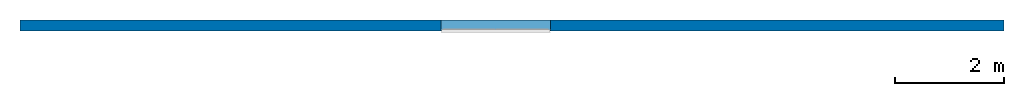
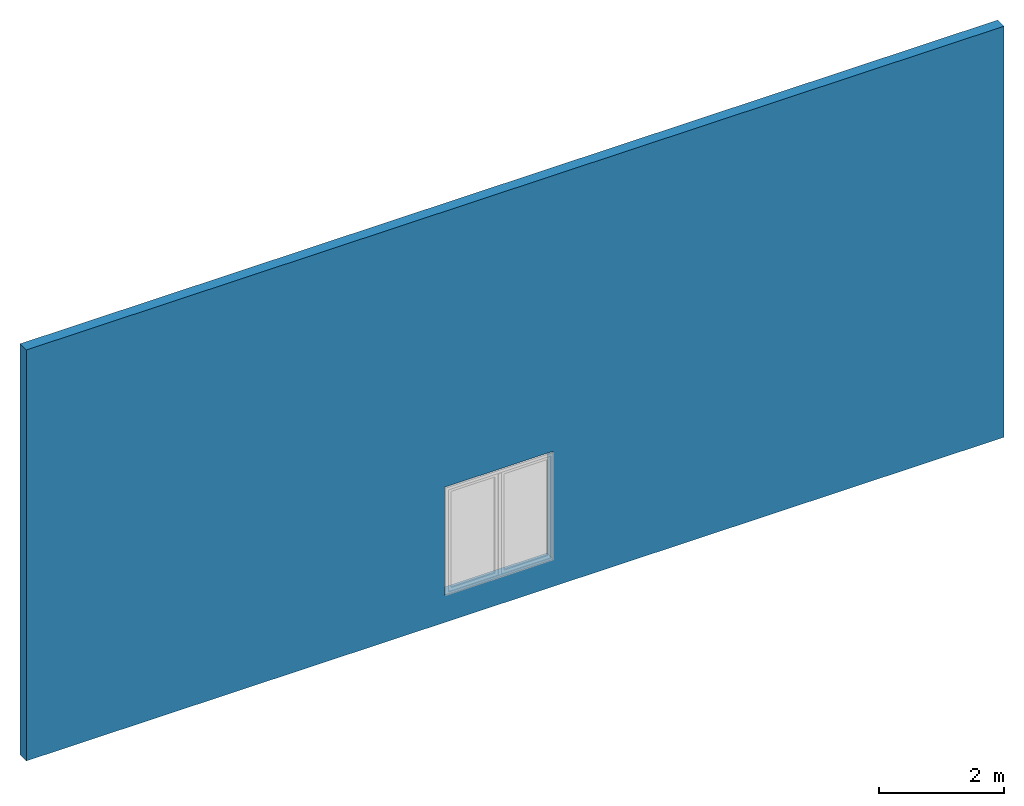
# One storey, part 1 of 2: 1 wall, 1 opening.
"""IFC2X3 building model written with IfcOpenShell, lengths in millimetres."""

from ifc_helpers import new_model, entity, si_unit, converted_unit, derived_unit, direction, frame, frame_2d, origin, place, context, subcontext, project, spatial, rectangle, extrude, material, layer, layer_set, layer_usage, type_object, element, save


model = new_model("IFC2X3")

# Units and contexts
model_context = context("Model", 3, precision=0.01, world=origin(), true_north=direction((6.12303176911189e-17, 1.0)))
body_context = subcontext(model_context, "Body", "Model", "MODEL_VIEW")
ifc_project = project(units=[si_unit("LENGTHUNIT", "METRE", prefix="MILLI"), si_unit("AREAUNIT", "SQUARE_METRE"), si_unit("VOLUMEUNIT", "CUBIC_METRE"), converted_unit("PLANEANGLEUNIT", "DEGREE", entity("IfcRatioMeasure", 0.0174532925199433), si_unit("PLANEANGLEUNIT", "RADIAN"), dimensions=[0, 0, 0, 0, 0, 0, 0]), si_unit("MASSUNIT", "GRAM", prefix="KILO"), derived_unit("MASSDENSITYUNIT", [(si_unit("MASSUNIT", "GRAM", prefix="KILO"), 1), (si_unit("LENGTHUNIT", "METRE"), -3)]), si_unit("TIMEUNIT", "SECOND"), si_unit("FREQUENCYUNIT", "HERTZ"), si_unit("THERMODYNAMICTEMPERATUREUNIT", "DEGREE_CELSIUS"), derived_unit("THERMALTRANSMITTANCEUNIT", [(si_unit("MASSUNIT", "GRAM", prefix="KILO"), 1), (si_unit("THERMODYNAMICTEMPERATUREUNIT", "KELVIN"), -1), (si_unit("TIMEUNIT", "SECOND"), -3)]), derived_unit("VOLUMETRICFLOWRATEUNIT", [(si_unit("LENGTHUNIT", "METRE"), 3), (si_unit("TIMEUNIT", "SECOND"), -1)]), si_unit("ELECTRICCURRENTUNIT", "AMPERE"), si_unit("ELECTRICVOLTAGEUNIT", "VOLT"), si_unit("POWERUNIT", "WATT"), si_unit("FORCEUNIT", "NEWTON", prefix="KILO"), si_unit("ILLUMINANCEUNIT", "LUX"), si_unit("LUMINOUSFLUXUNIT", "LUMEN"), si_unit("LUMINOUSINTENSITYUNIT", "CANDELA"), derived_unit("USERDEFINED", [(si_unit("MASSUNIT", "GRAM", prefix="KILO"), -1), (si_unit("LENGTHUNIT", "METRE"), -2), (si_unit("TIMEUNIT", "SECOND"), 3), (si_unit("LUMINOUSFLUXUNIT", "LUMEN"), 1)]), derived_unit("LINEARVELOCITYUNIT", [(si_unit("LENGTHUNIT", "METRE"), 1), (si_unit("TIMEUNIT", "SECOND"), -1)]), si_unit("PRESSUREUNIT", "PASCAL"), derived_unit("USERDEFINED", [(si_unit("LENGTHUNIT", "METRE"), -2), (si_unit("MASSUNIT", "GRAM", prefix="KILO"), 1), (si_unit("TIMEUNIT", "SECOND"), -2)])], contexts=[model_context])

# Site, building, storey
site_placement = place(None, origin())
site = spatial("IfcSite", under=ifc_project, at=site_placement, Name="Default", CompositionType="ELEMENT")
building_placement = place(site_placement, origin())
building = spatial("IfcBuilding", under=site, at=building_placement, CompositionType="ELEMENT")
storey_placement = place(building_placement, origin())
storey = spatial("IfcBuildingStorey", under=building, at=storey_placement, Name="Nivel 1", CompositionType="ELEMENT", Elevation=0.0)

# Wall, opening
ifc_material = material(Name="Muro por defecto")
ifc_layer = layer(ifc_material, 200.0)
ifc_layer_set = layer_set([ifc_layer], Name="Muro básico:Genérico - 200 mm")
ifc_layer_usage = layer_usage(ifc_layer_set, "AXIS2", "NEGATIVE", 100.0)
wall_type = type_object("IfcWallType", Name="Muro básico:Genérico - 200 mm", PredefinedType="STANDARD", material=ifc_layer_set)
wall_placement = place(storey_placement, frame((-10823.7335756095, 2881.09928072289, 0.0)))
wall = element("IfcWallStandardCase", 1, at=wall_placement, inside=storey, type_object=wall_type, material=ifc_layer_usage, Name="Muro básico:Genérico - 200 mm", ObjectType="Muro básico:Genérico - 200 mm:398", context=body_context, shape_type="SweptSolid", body=[
    extrude(rectangle(XDim=18000.0, YDim=200.0, at=frame_2d((9000.0, -6.3948846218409e-14), x_axis=(-1.0, 0.0))), origin(), (0.0, 0.0, 1.0), 8000.0),
])
opening_placement = place(wall_placement, origin())
element("IfcOpeningElement", 2, at=opening_placement, cuts=wall, Name="Muro básico:Genérico - 200 mm", ObjectType="Opening", context=body_context, shape_type="SweptSolid", body=[
    extrude(rectangle(XDim=2099.99999999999, YDim=2000.0, at=frame_2d((1.13686837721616e-13, -1.13686837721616e-13), x_axis=(0.0, 1.0))), frame((8700.0, -1424.0, 1583.0496101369), z_axis=(0.0, 1.0, 0.0), x_axis=(-1.0, 0.0, 0.0)), (0.0, 0.0, 1.0), 3048.0),
])

save(model, "model.ifc")
